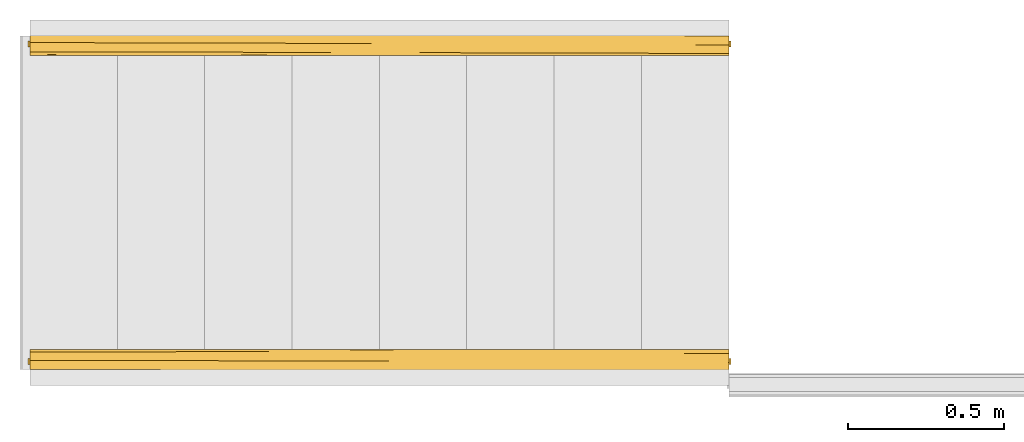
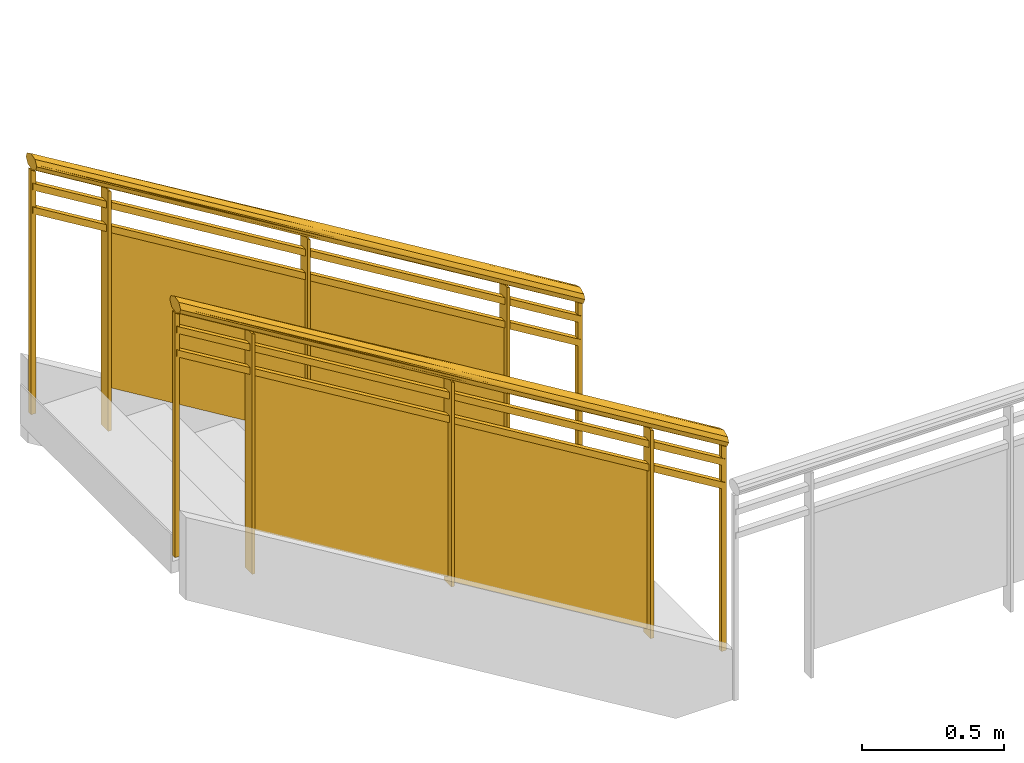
# One storey, part 3 of 4: 2 railings, 1 element without a shape of its own.
"""IFC2X3 building model written with IfcOpenShell, lengths in feet."""

from ifc_helpers import new_model, entity, si_unit, converted_unit, derived_unit, direction, frame, origin, place, context, subcontext, project, spatial, faceted_brep, material, material_list, element, aggregate, save


model = new_model("IFC2X3")

# Units and contexts
model_context = context("Model", 3, precision=0.0001, world=origin(), true_north=direction((6.12303176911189e-17, 1.0)))
body_context = subcontext(model_context, "Body", "Model", "MODEL_VIEW")
ifc_project = project(units=[converted_unit("LENGTHUNIT", "FOOT", entity("IfcRatioMeasure", 0.3048), si_unit("LENGTHUNIT", "METRE"), dimensions=[1, 0, 0, 0, 0, 0, 0]), converted_unit("AREAUNIT", "SQUARE FOOT", entity("IfcRatioMeasure", 0.09290304), si_unit("AREAUNIT", "SQUARE_METRE"), dimensions=[2, 0, 0, 0, 0, 0, 0]), converted_unit("VOLUMEUNIT", "CUBIC FOOT", entity("IfcRatioMeasure", 0.028316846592), si_unit("VOLUMEUNIT", "CUBIC_METRE"), dimensions=[3, 0, 0, 0, 0, 0, 0]), converted_unit("PLANEANGLEUNIT", "DEGREE", entity("IfcRatioMeasure", 0.0174532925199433), si_unit("PLANEANGLEUNIT", "RADIAN"), dimensions=[0, 0, 0, 0, 0, 0, 0]), si_unit("MASSUNIT", "GRAM", prefix="KILO"), derived_unit("MASSDENSITYUNIT", [(si_unit("MASSUNIT", "GRAM", prefix="KILO"), 1), (si_unit("LENGTHUNIT", "METRE"), -3)]), si_unit("TIMEUNIT", "SECOND"), si_unit("FREQUENCYUNIT", "HERTZ"), si_unit("THERMODYNAMICTEMPERATUREUNIT", "DEGREE_CELSIUS"), derived_unit("THERMALTRANSMITTANCEUNIT", [(si_unit("MASSUNIT", "GRAM", prefix="KILO"), 1), (si_unit("THERMODYNAMICTEMPERATUREUNIT", "KELVIN"), -1), (si_unit("TIMEUNIT", "SECOND"), -3)]), derived_unit("VOLUMETRICFLOWRATEUNIT", [(si_unit("LENGTHUNIT", "METRE"), 3), (si_unit("TIMEUNIT", "SECOND"), -1)]), si_unit("ELECTRICCURRENTUNIT", "AMPERE"), si_unit("ELECTRICVOLTAGEUNIT", "VOLT"), si_unit("POWERUNIT", "WATT"), si_unit("FORCEUNIT", "NEWTON"), si_unit("ILLUMINANCEUNIT", "LUX"), si_unit("LUMINOUSFLUXUNIT", "LUMEN"), si_unit("LUMINOUSINTENSITYUNIT", "CANDELA"), derived_unit("USERDEFINED", [(si_unit("MASSUNIT", "GRAM", prefix="KILO"), -1), (si_unit("LENGTHUNIT", "METRE"), -2), (si_unit("TIMEUNIT", "SECOND"), 3), (si_unit("LUMINOUSFLUXUNIT", "LUMEN"), 1)]), derived_unit("LINEARVELOCITYUNIT", [(si_unit("LENGTHUNIT", "METRE"), 1), (si_unit("TIMEUNIT", "SECOND"), -1)]), si_unit("PRESSUREUNIT", "PASCAL"), derived_unit("USERDEFINED", [(si_unit("LENGTHUNIT", "METRE"), -2), (si_unit("MASSUNIT", "GRAM", prefix="KILO"), 1), (si_unit("TIMEUNIT", "SECOND"), -2)])], contexts=[model_context])

# Site, building, storey
site_placement = place(None, origin())
site = spatial("IfcSite", under=ifc_project, at=site_placement, Name="Default", CompositionType="ELEMENT")
building_placement = place(site_placement, origin())
building = spatial("IfcBuilding", under=site, at=building_placement, CompositionType="ELEMENT")
storey_placement = place(building_placement, frame((0.0, 0.0, 55.0)))
storey = spatial("IfcBuildingStorey", under=building, at=storey_placement, Name="L 10", CompositionType="ELEMENT", Elevation=54.9999999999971)

# Stair, railings
stair_placement = place(storey_placement, origin())
stair = element("IfcStair", 1, at=stair_placement, inside=storey, Name="Assembled Stair:Stair", ObjectType="Assembled Stair:7\" max riser 11\" tread", ShapeType="NOTDEFINED")
ifc_material_1 = material(Name="Glass")
ifc_material_2 = material(Name="alum - color")
ifc_material_list_1 = material_list([ifc_material_1, ifc_material_2])
railing_1_placement = place(stair_placement, frame((-46.3459961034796, -11.8838750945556, 0.55555555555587)))
railing_1 = element("IfcRailing", 2, at=railing_1_placement, material=ifc_material_list_1, Name="Railing:Glass Panel - Bottom Fill", ObjectType="Railing:Glass Panel - Bottom Fill", PredefinedType="NOTDEFINED", context=body_context, shape_type="Brep", body=[
    faceted_brep([(1.04166666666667, 0.21356716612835, 6.71557302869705), (1.04166666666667, 0.0469004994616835, 6.71557302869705), (1.04166666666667, 0.0469004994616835, 3.33333333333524), (1.04166666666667, 0.21356716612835, 3.33333333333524), (1.0, 0.213567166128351, 6.74082555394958), (1.0, 0.213567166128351, 3.33333333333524), (1.0, 0.0469004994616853, 6.74082555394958), (1.0, 0.0469004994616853, 3.33333333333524)], [[[0, 1, 2, 3]], [[4, 0, 3, 5]], [[6, 4, 5, 7]], [[1, 6, 7, 2]], [[1, 0, 4, 6]], [[3, 2, 7, 5]]]),
    faceted_brep([(3.68750000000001, 0.10879302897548, 2.3030303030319), (3.68750000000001, 0.10879302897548, 4.50683388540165), (1.02083333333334, 0.108793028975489, 6.1229955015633), (1.02083333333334, 0.108793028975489, 3.91919191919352), (3.68750000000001, 0.129626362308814, 2.3030303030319), (1.02083333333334, 0.129626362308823, 3.91919191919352), (1.02083333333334, 0.129626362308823, 6.1229955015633), (3.68750000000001, 0.129626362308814, 4.50683388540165)], [[[0, 1, 2, 3]], [[4, 5, 6, 7]], [[1, 0, 4, 7]], [[2, 1, 7, 6]], [[3, 2, 6, 5]], [[0, 3, 5, 4]]]),
    faceted_brep([(3.70833333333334, 0.213567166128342, 5.09941141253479), (3.70833333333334, 0.0469004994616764, 5.09941141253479), (3.70833333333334, 0.0469004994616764, 2.22222222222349), (3.70833333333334, 0.213567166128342, 2.22222222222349), (3.66666666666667, 0.213567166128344, 5.12466393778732), (3.66666666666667, 0.213567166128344, 2.22222222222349), (3.66666666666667, 0.0469004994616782, 5.12466393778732), (3.66666666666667, 0.0469004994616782, 2.22222222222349)], [[[0, 1, 2, 3]], [[4, 0, 3, 5]], [[6, 4, 5, 7]], [[1, 6, 7, 2]], [[1, 0, 4, 6]], [[3, 2, 7, 5]]]),
    faceted_brep([(6.35416666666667, 0.108793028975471, 0.636363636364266), (6.35416666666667, 0.108793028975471, 2.89067226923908), (3.68750000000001, 0.10879302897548, 4.50683388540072), (3.68750000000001, 0.10879302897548, 2.25252525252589), (6.35416666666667, 0.129626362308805, 0.636363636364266), (3.68750000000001, 0.129626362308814, 2.25252525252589), (3.68750000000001, 0.129626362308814, 4.50683388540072), (6.35416666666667, 0.129626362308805, 2.89067226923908)], [[[0, 1, 2, 3]], [[4, 5, 6, 7]], [[1, 0, 4, 7]], [[2, 1, 7, 6]], [[3, 2, 6, 5]], [[0, 3, 5, 4]]]),
    faceted_brep([(6.37500000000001, 0.213567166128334, 3.48324979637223), (6.37500000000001, 0.0469004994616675, 3.48324979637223), (6.37500000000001, 0.0469004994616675, 0.555555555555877), (6.37500000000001, 0.213567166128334, 0.555555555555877), (6.33333333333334, 0.213567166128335, 3.50850232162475), (6.33333333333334, 0.213567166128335, 0.555555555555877), (6.33333333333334, 0.0469004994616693, 3.50850232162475), (6.33333333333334, 0.0469004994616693, 0.555555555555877)], [[[0, 1, 2, 3]], [[4, 0, 3, 5]], [[6, 4, 5, 7]], [[1, 6, 7, 2]], [[1, 0, 4, 6]], [[3, 2, 7, 5]]]),
    faceted_brep([(0.0625, 0.161483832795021, 7.30900737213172), (0.0625, 0.098983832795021, 7.30900737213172), (0.0625, 0.098983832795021, 3.88888888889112), (0.0625, 0.161483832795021, 3.88888888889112), (0.0, 0.161483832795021, 7.3468861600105), (0.0, 0.161483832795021, 3.88888888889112), (0.0, 0.098983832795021, 7.3468861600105), (0.0, 0.098983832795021, 3.88888888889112)], [[[0, 1, 2, 3]], [[4, 0, 3, 5]], [[6, 4, 5, 7]], [[1, 6, 7, 2]], [[1, 0, 4, 6]], [[3, 2, 7, 5]]]),
    faceted_brep([(7.37500000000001, 0.161483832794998, 2.8771891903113), (7.37500000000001, 0.0989838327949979, 2.8771891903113), (7.37500000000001, 0.0989838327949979, 0.0), (7.37500000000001, 0.161483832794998, 0.0), (7.31250000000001, 0.161483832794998, 2.91506797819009), (7.31250000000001, 0.161483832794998, 0.0), (7.31250000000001, 0.0989838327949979, 2.91506797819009), (7.31250000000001, 0.0989838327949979, 0.0)], [[[0, 1, 2, 3]], [[4, 0, 3, 5]], [[6, 4, 5, 7]], [[1, 6, 7, 2]], [[1, 0, 4, 6]], [[3, 2, 7, 5]]]),
    faceted_brep([(7.35416666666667, 0.171900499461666, 2.71538833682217), (7.35416666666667, 0.0885671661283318, 2.71538833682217), (7.35416666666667, 0.0885671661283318, 2.61794499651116), (7.35416666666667, 0.171900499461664, 2.61794499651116), (0.0208333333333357, 0.171900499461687, 7.15983278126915), (0.0208333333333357, 0.171900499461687, 7.06238944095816), (0.0208333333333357, 0.0885671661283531, 7.06238944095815), (0.0208333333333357, 0.0885671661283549, 7.15983278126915)], [[[0, 1, 2, 3]], [[4, 5, 6, 7]], [[1, 0, 4, 7]], [[2, 1, 7, 6]], [[3, 2, 6, 5]], [[0, 3, 5, 4]]]),
    faceted_brep([(7.35416666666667, 0.171900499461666, 2.38205500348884), (7.35416666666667, 0.0885671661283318, 2.38205500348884), (7.35416666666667, 0.0885671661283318, 2.28461166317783), (7.35416666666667, 0.171900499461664, 2.28461166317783), (0.0208333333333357, 0.171900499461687, 6.82649944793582), (0.0208333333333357, 0.171900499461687, 6.72905610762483), (0.0208333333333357, 0.0885671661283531, 6.72905610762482), (0.0208333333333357, 0.0885671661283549, 6.82649944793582)], [[[0, 1, 2, 3]], [[4, 5, 6, 7]], [[1, 0, 4, 7]], [[2, 1, 7, 6]], [[3, 2, 6, 5]], [[0, 3, 5, 4]]]),
    faceted_brep([(7.35416666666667, 0.213875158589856, 3.08146632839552), (7.35416666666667, 0.165521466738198, 3.09524477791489), (7.35416666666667, 0.117167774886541, 3.10902322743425), (7.35416666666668, 0.0731372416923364, 3.08672922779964), (7.35416666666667, 0.02910670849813, 3.06443522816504), (7.35416666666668, 0.0171702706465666, 3.03221761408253), (7.35416666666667, 0.00523383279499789, 3.0), (7.35416666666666, 0.025913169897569, 2.95926683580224), (7.35416666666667, 0.0465925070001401, 2.91853367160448), (7.35416666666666, 0.0949461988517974, 2.90475522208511), (7.35416666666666, 0.119123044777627, 2.89786599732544), (7.35416666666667, 0.143299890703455, 2.89097677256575), (7.35416666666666, 0.187330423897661, 2.91327077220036), (7.35416666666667, 0.231360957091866, 2.93556477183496), (7.35416666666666, 0.243297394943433, 2.96778238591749), (7.35416666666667, 0.255233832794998, 3.0), (7.35416666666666, 0.234554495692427, 3.04073316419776), (0.0208333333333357, 0.234554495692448, 7.40371128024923), (0.0208333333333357, 0.213875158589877, 7.36297811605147), (0.0208333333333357, 0.16552146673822, 7.3491996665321), (0.0208333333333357, 0.117167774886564, 7.33542121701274), (0.0208333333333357, 0.0731372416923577, 7.35771521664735), (0.0208333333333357, 0.0291067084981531, 7.38000921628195), (0.0208333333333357, 0.0171702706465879, 7.41222683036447), (0.0208333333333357, 0.00523383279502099, 7.44444444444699), (0.0208333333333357, 0.0160886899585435, 7.46582582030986), (0.0208333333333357, 0.0259131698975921, 7.48517760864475), (0.0208333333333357, 0.0465925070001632, 7.52591077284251), (0.0208333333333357, 0.0949461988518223, 7.53968922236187), (0.0208333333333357, 0.143299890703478, 7.55346767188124), (0.0208333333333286, 0.165315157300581, 7.54232067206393), (0.0208333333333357, 0.187330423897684, 7.53117367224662), (0.0208333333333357, 0.231360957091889, 7.50887967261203), (0.0208333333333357, 0.243297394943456, 7.4766620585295), (0.0208333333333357, 0.255233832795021, 7.44444444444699), (3.67470945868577, 0.0137122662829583, 5.19028869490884), (3.50252181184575, 0.0829558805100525, 5.23284993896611), (3.45921612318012, 0.0528675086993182, 5.27447257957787), (4.29628493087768, 0.0291542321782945, 4.78876910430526), (4.21551510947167, 0.00523383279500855, 4.90221306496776), (3.15949109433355, 0.00523383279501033, 5.54222761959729), (3.33385169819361, 0.197494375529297, 5.34415364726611), (4.14914124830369, 0.165864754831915, 4.83736380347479), (3.68570699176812, 0.130266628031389, 5.11368513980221), (3.64781981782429, 0.223695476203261, 5.17347577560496), (3.92848502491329, 0.242734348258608, 5.02838773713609), (4.21551496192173, 0.255233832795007, 4.90221315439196), (3.8271682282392, 0.248958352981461, 5.17187272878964), (4.04455402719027, 0.234486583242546, 5.06630868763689), (3.23018888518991, 0.211415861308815, 5.58273826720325), (3.68909777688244, 0.181027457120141, 5.3214190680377), (4.18350805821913, 0.00868237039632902, 4.9471833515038), (3.83159048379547, 0.133323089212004, 5.24448493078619), (3.94783373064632, 0.098844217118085, 5.17055526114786), (3.77597728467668, 0.0386138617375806, 5.24317359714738), (3.99573411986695, 0.0188155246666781, 5.08510860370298), (3.11455551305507, 0.0671397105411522, 5.66409552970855)], [[[0, 1, 2, 3, 4, 5, 6, 7, 8, 9, 10, 11, 12, 13, 14, 15, 16]], [[17, 18, 19, 20, 21, 22, 23, 24, 25, 26, 27, 28, 29, 30, 31, 32, 33, 34]], [[35, 7, 6]], [[9, 8, 36, 10]], [[22, 37, 38]], [[37, 36, 8]], [[21, 36, 37]], [[35, 6, 39, 40]], [[41, 42, 19]], [[38, 7, 35]], [[19, 42, 43]], [[44, 41, 18]], [[13, 45, 14]], [[8, 38, 37]], [[44, 12, 41]], [[38, 8, 7]], [[11, 43, 42]], [[17, 34, 46]], [[35, 23, 22]], [[11, 10, 43]], [[40, 24, 23]], [[21, 37, 22]], [[36, 21, 20]], [[36, 20, 43]], [[36, 43, 10]], [[43, 20, 19]], [[42, 12, 11]], [[12, 42, 41]], [[13, 12, 44]], [[18, 41, 19]], [[46, 15, 14]], [[44, 18, 17]], [[17, 45, 44]], [[38, 35, 22]], [[45, 17, 46]], [[23, 35, 40]], [[44, 45, 13]], [[14, 45, 46]], [[16, 47, 48]], [[0, 48, 49]], [[49, 31, 50]], [[31, 30, 50]], [[51, 26, 25]], [[2, 52, 53]], [[54, 27, 26]], [[54, 55, 4]], [[26, 51, 55]], [[47, 16, 15]], [[54, 26, 55]], [[5, 4, 55]], [[25, 24, 40, 39]], [[56, 54, 3]], [[56, 3, 53]], [[50, 0, 49]], [[27, 54, 56]], [[51, 39, 6]], [[53, 52, 28]], [[54, 4, 3]], [[56, 28, 27]], [[28, 56, 53]], [[5, 55, 51]], [[29, 28, 52]], [[2, 53, 3]], [[30, 29, 52]], [[52, 2, 1]], [[1, 0, 50]], [[52, 50, 30]], [[1, 50, 52]], [[49, 32, 31]], [[32, 49, 48]], [[33, 48, 47]], [[16, 48, 0]], [[46, 34, 47, 15]], [[33, 32, 48]], [[33, 47, 34]], [[5, 51, 6]], [[39, 51, 25]]]),
])
ifc_material_list_2 = material_list([ifc_material_1, ifc_material_2])
railing_2_placement = place(stair_placement, frame((-46.3459961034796, -15.2172084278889, 0.55555555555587)))
railing_2 = element("IfcRailing", 3, at=railing_2_placement, material=ifc_material_list_2, Name="Railing:Glass Panel - Bottom Fill", ObjectType="Railing:Glass Panel - Bottom Fill", PredefinedType="NOTDEFINED", context=body_context, shape_type="Brep", body=[
    faceted_brep([(1.04166666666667, 0.0469004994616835, 6.71557302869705), (1.04166666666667, 0.0469004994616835, 3.33333333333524), (1.04166666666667, 0.213567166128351, 3.33333333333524), (1.04166666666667, 0.213567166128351, 6.71557302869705), (1.0, 0.0469004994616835, 6.74082555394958), (1.0, 0.0469004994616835, 3.33333333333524), (1.0, 0.213567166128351, 6.74082555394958), (1.0, 0.213567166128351, 3.33333333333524)], [[[0, 1, 2, 3]], [[4, 5, 1, 0]], [[6, 7, 5, 4]], [[3, 2, 7, 6]], [[3, 6, 4, 0]], [[1, 5, 7, 2]]]),
    faceted_brep([(3.68750000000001, 0.151674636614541, 2.3030303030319), (1.02083333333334, 0.151674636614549, 3.91919191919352), (1.02083333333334, 0.151674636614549, 6.1229955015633), (3.68750000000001, 0.151674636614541, 4.50683388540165), (3.68750000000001, 0.130841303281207, 2.3030303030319), (3.68750000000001, 0.130841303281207, 4.50683388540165), (1.02083333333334, 0.130841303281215, 6.1229955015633), (1.02083333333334, 0.130841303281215, 3.91919191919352)], [[[0, 1, 2, 3]], [[4, 5, 6, 7]], [[3, 5, 4, 0]], [[2, 6, 5, 3]], [[1, 7, 6, 2]], [[0, 4, 7, 1]]]),
    faceted_brep([(3.70833333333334, 0.0469004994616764, 5.09941141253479), (3.70833333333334, 0.0469004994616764, 2.22222222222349), (3.70833333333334, 0.213567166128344, 2.22222222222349), (3.70833333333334, 0.213567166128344, 5.09941141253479), (3.66666666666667, 0.0469004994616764, 5.12466393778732), (3.66666666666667, 0.0469004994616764, 2.22222222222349), (3.66666666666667, 0.213567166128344, 5.12466393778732), (3.66666666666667, 0.213567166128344, 2.22222222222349)], [[[0, 1, 2, 3]], [[4, 5, 1, 0]], [[6, 7, 5, 4]], [[3, 2, 7, 6]], [[3, 6, 4, 0]], [[1, 5, 7, 2]]]),
    faceted_brep([(6.35416666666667, 0.151674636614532, 0.636363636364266), (3.68750000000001, 0.151674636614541, 2.25252525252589), (3.68750000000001, 0.151674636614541, 4.50683388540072), (6.35416666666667, 0.151674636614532, 2.89067226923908), (6.35416666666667, 0.130841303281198, 0.636363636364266), (6.35416666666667, 0.130841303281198, 2.89067226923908), (3.68750000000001, 0.130841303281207, 4.50683388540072), (3.68750000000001, 0.130841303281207, 2.25252525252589)], [[[0, 1, 2, 3]], [[4, 5, 6, 7]], [[3, 5, 4, 0]], [[2, 6, 5, 3]], [[1, 7, 6, 2]], [[0, 4, 7, 1]]]),
    faceted_brep([(6.37500000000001, 0.0469004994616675, 3.48324979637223), (6.37500000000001, 0.0469004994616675, 0.555555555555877), (6.37500000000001, 0.213567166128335, 0.555555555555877), (6.37500000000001, 0.213567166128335, 3.48324979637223), (6.33333333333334, 0.0469004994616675, 3.50850232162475), (6.33333333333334, 0.0469004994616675, 0.555555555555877), (6.33333333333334, 0.213567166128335, 3.50850232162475), (6.33333333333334, 0.213567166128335, 0.555555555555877)], [[[0, 1, 2, 3]], [[4, 5, 1, 0]], [[6, 7, 5, 4]], [[3, 2, 7, 6]], [[3, 6, 4, 0]], [[1, 5, 7, 2]]]),
    faceted_brep([(0.0625, 0.098983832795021, 7.30900737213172), (0.0625, 0.098983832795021, 3.88888888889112), (0.0625, 0.161483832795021, 3.88888888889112), (0.0625, 0.161483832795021, 7.30900737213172), (0.0, 0.098983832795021, 7.3468861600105), (0.0, 0.098983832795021, 3.88888888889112), (0.0, 0.161483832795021, 7.3468861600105), (0.0, 0.161483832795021, 3.88888888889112)], [[[0, 1, 2, 3]], [[4, 5, 1, 0]], [[6, 7, 5, 4]], [[3, 2, 7, 6]], [[3, 6, 4, 0]], [[1, 5, 7, 2]]]),
    faceted_brep([(7.37500000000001, 0.0989838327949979, 2.8771891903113), (7.37500000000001, 0.0989838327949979, 0.0), (7.37500000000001, 0.161483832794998, 0.0), (7.37500000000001, 0.161483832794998, 2.8771891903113), (7.31250000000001, 0.0989838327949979, 2.91506797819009), (7.31250000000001, 0.0989838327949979, 0.0), (7.31250000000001, 0.161483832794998, 2.91506797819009), (7.31250000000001, 0.161483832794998, 0.0)], [[[0, 1, 2, 3]], [[4, 5, 1, 0]], [[6, 7, 5, 4]], [[3, 2, 7, 6]], [[3, 6, 4, 0]], [[1, 5, 7, 2]]]),
    faceted_brep([(7.35416666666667, 0.0885671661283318, 2.71538833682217), (7.35416666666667, 0.0885671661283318, 2.61794499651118), (7.35416666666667, 0.171900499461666, 2.61794499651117), (7.35416666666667, 0.171900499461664, 2.71538833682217), (0.0208333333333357, 0.0885671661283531, 7.15983278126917), (0.0208333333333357, 0.171900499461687, 7.15983278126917), (0.0208333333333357, 0.171900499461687, 7.06238944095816), (0.0208333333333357, 0.0885671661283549, 7.06238944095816)], [[[0, 1, 2, 3]], [[4, 5, 6, 7]], [[1, 0, 4, 7]], [[2, 1, 7, 6]], [[3, 2, 6, 5]], [[0, 3, 5, 4]]]),
    faceted_brep([(7.35416666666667, 0.0885671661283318, 2.38205500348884), (7.35416666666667, 0.0885671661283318, 2.28461166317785), (7.35416666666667, 0.171900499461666, 2.28461166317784), (7.35416666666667, 0.171900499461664, 2.38205500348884), (0.0208333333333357, 0.0885671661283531, 6.82649944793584), (0.0208333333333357, 0.171900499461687, 6.82649944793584), (0.0208333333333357, 0.171900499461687, 6.72905610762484), (0.0208333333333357, 0.0885671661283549, 6.72905610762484)], [[[0, 1, 2, 3]], [[4, 5, 6, 7]], [[1, 0, 4, 7]], [[2, 1, 7, 6]], [[3, 2, 6, 5]], [[0, 3, 5, 4]]]),
    faceted_brep([(7.35416666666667, 0.213875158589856, 3.08146632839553), (7.35416666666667, 0.1655214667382, 3.09524477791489), (7.35416666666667, 0.117167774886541, 3.10902322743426), (7.35416666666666, 0.0731372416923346, 3.08672922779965), (7.35416666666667, 0.02910670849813, 3.06443522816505), (7.35416666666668, 0.0171702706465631, 3.03221761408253), (7.35416666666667, 0.00523383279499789, 3.0), (7.35416666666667, 0.0259131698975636, 2.95926683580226), (7.35416666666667, 0.0465925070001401, 2.91853367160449), (7.35416666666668, 0.0949461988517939, 2.90475522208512), (7.35416666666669, 0.119123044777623, 2.89786599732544), (7.35416666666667, 0.143299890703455, 2.89097677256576), (7.35416666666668, 0.187330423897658, 2.91327077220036), (7.35416666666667, 0.231360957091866, 2.93556477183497), (7.35416666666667, 0.243297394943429, 2.96778238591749), (7.35416666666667, 0.255233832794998, 3.0), (7.35416666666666, 0.234554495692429, 3.04073316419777), (0.0208333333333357, 0.23455449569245, 7.40371128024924), (0.0208333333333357, 0.213875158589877, 7.36297811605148), (0.0208333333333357, 0.16552146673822, 7.34919966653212), (0.0208333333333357, 0.117167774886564, 7.33542121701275), (0.0208333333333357, 0.0731372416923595, 7.35771521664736), (0.0208333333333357, 0.0291067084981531, 7.38000921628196), (0.0208333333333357, 0.0171702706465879, 7.41222683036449), (0.0208333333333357, 0.00523383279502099, 7.444444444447), (0.0208333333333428, 0.0160886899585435, 7.46582582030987), (0.0208333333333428, 0.0259131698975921, 7.48517760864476), (0.0208333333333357, 0.0465925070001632, 7.52591077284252), (0.0208333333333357, 0.0949461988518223, 7.53968922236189), (0.0208333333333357, 0.143299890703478, 7.55346767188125), (0.0208333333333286, 0.165315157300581, 7.54232067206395), (0.0208333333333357, 0.187330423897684, 7.53117367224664), (0.0208333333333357, 0.231360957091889, 7.50887967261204), (0.0208333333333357, 0.243297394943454, 7.47666205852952), (0.0208333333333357, 0.255233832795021, 7.444444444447), (3.67470945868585, 0.0137122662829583, 5.1902886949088), (3.50252181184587, 0.0829558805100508, 5.23284993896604), (3.45921612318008, 0.0528675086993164, 5.2744725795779), (4.29628493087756, 0.0291542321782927, 4.78876910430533), (4.21549219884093, 0.00523383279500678, 4.90222695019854), (3.15949109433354, 0.00523383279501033, 5.54222761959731), (3.33385169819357, 0.197494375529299, 5.34415364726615), (4.14914124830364, 0.165864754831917, 4.83736380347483), (3.68570699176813, 0.130266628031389, 5.11368513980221), (3.64781981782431, 0.223695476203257, 5.17347577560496), (3.92848502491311, 0.242734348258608, 5.0283877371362), (4.21550194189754, 0.255233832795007, 4.90222104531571), (3.82716822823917, 0.248958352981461, 5.17187272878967), (4.04455402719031, 0.234486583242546, 5.06630868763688), (3.23018888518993, 0.211415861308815, 5.58273826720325), (3.68909777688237, 0.181027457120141, 5.32141906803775), (4.1835080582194, 0.00868237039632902, 4.94718335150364), (3.83159048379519, 0.133323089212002, 5.24448493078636), (3.94783373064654, 0.0988442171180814, 5.17055526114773), (3.77597728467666, 0.0386138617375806, 5.24317359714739), (3.99573411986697, 0.0188155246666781, 5.08510860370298), (3.11455551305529, 0.0671397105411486, 5.66409552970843)], [[[0, 1, 2, 3, 4, 5, 6, 7, 8, 9, 10, 11, 12, 13, 14, 15, 16]], [[17, 18, 19, 20, 21, 22, 23, 24, 25, 26, 27, 28, 29, 30, 31, 32, 33, 34]], [[35, 7, 6]], [[9, 8, 36, 10]], [[22, 37, 38]], [[37, 36, 8]], [[21, 36, 37]], [[35, 6, 39, 40]], [[41, 42, 19]], [[38, 7, 35]], [[19, 42, 43]], [[44, 41, 18]], [[13, 45, 14]], [[8, 38, 37]], [[44, 12, 41]], [[38, 8, 7]], [[11, 43, 42]], [[17, 34, 46]], [[35, 23, 22]], [[11, 10, 43]], [[40, 24, 23]], [[21, 37, 22]], [[36, 21, 20]], [[36, 20, 43]], [[36, 43, 10]], [[43, 20, 19]], [[42, 12, 11]], [[12, 42, 41]], [[13, 12, 44]], [[18, 41, 19]], [[46, 15, 14]], [[44, 18, 17]], [[17, 45, 44]], [[38, 35, 22]], [[45, 17, 46]], [[23, 35, 40]], [[44, 45, 13]], [[14, 45, 46]], [[16, 47, 48]], [[0, 48, 49]], [[49, 31, 50]], [[31, 30, 50]], [[51, 26, 25]], [[2, 52, 53]], [[54, 27, 26]], [[54, 55, 4]], [[26, 51, 55]], [[47, 16, 15]], [[54, 26, 55]], [[5, 4, 55]], [[25, 24, 40, 39]], [[56, 54, 3]], [[56, 3, 53]], [[50, 0, 49]], [[27, 54, 56]], [[51, 39, 6]], [[53, 52, 28]], [[54, 4, 3]], [[56, 28, 27]], [[28, 56, 53]], [[5, 55, 51]], [[29, 28, 52]], [[2, 53, 3]], [[30, 29, 52]], [[52, 2, 1]], [[1, 0, 50]], [[52, 50, 30]], [[1, 50, 52]], [[49, 32, 31]], [[32, 49, 48]], [[33, 48, 47]], [[16, 48, 0]], [[46, 34, 47, 15]], [[33, 32, 48]], [[33, 47, 34]], [[5, 51, 6]], [[39, 51, 25]]]),
])
aggregate(stair, [railing_1, railing_2])

save(model, "model.ifc")
